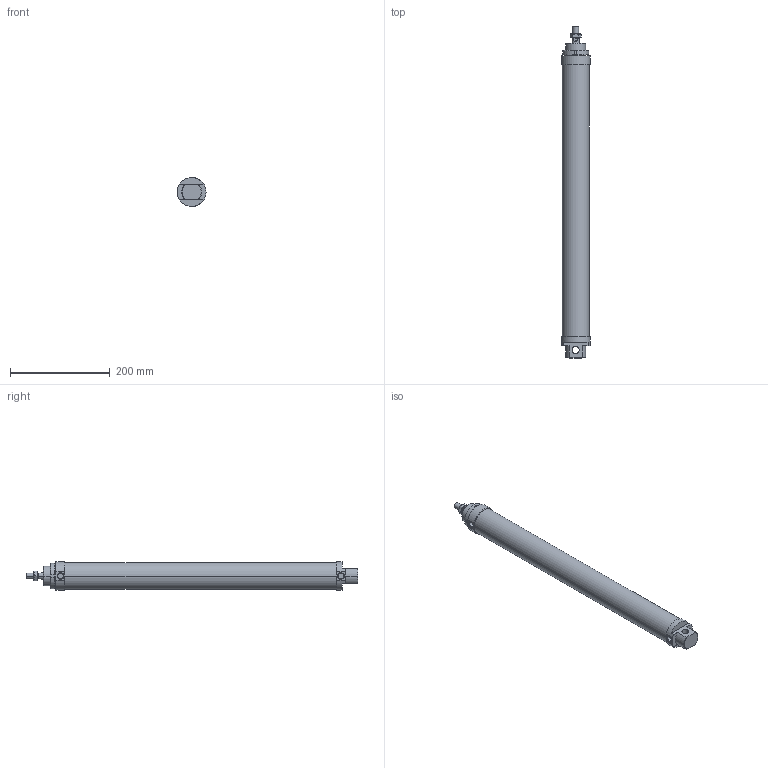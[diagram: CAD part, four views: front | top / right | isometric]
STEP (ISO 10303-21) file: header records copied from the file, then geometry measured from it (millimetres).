
FILE_DESCRIPTION((''),'2;1');
FILE_NAME('I:\DOC-EDP\Lib-3d\1200\CILINDRI\1260\1260_50_0500.stp','2003-04-02T15:12:24',('maffial1'),(''),'Autodesk Inventor (R) 6.0','Autodesk Inventor (R) 6.0','');
FILE_SCHEMA(('AUTOMOTIVE_DESIGN { 1 0 10303 214 1 1 1 1 }'));
Length unit declared in the file: millimetre
Products named in the file (5): 1260_50_0500; S1260_50_500; 1200_50_05; 1200_50_06; C1260_50_500
Assembly tree (4 placements, depth 2):
  1260_50_0500
    S1260_50_500
    1200_50_05
    1200_50_06
    C1260_50_500
Bounding box: 56.6 x 667 x 58 mm (x, y, z)
Volume: 1402857.5 mm3; surface area: 167810.5 mm2
Topology: 4 solids, 4 shells, 122 faces, 286 edges, 180 vertices
Faces by surface type: plane 44, cone 32, cylinder 26, bspline 20
Entity records: 3831 total; most frequent: CARTESIAN_POINT 997, DIRECTION 582, ORIENTED_EDGE 572, EDGE_CURVE 286, AXIS2_PLACEMENT_3D 229, VERTEX_POINT 180, EDGE_LOOP 136, VECTOR 124
